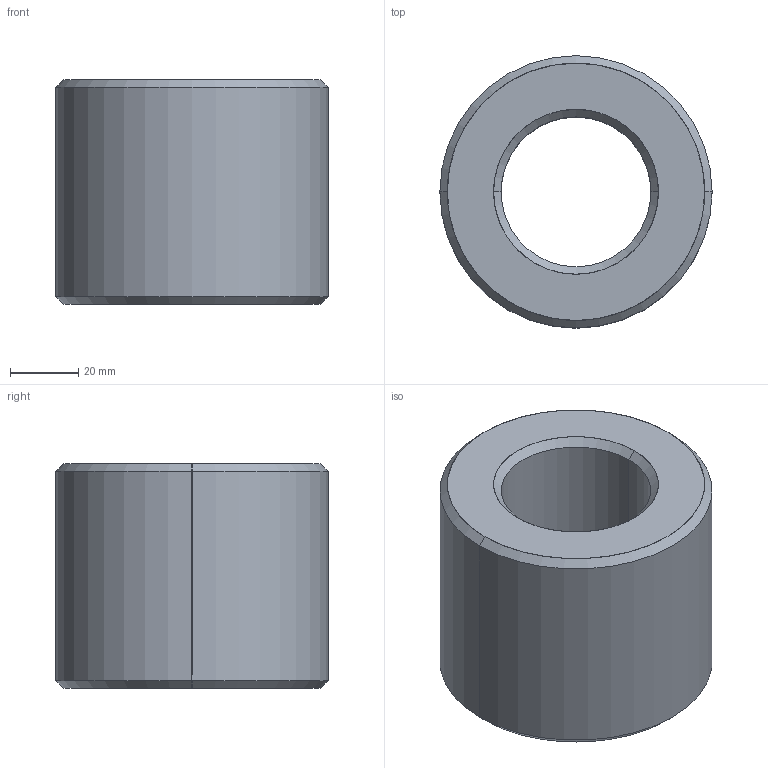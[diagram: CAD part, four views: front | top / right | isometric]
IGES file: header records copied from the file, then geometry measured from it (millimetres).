
Start section: SolidWorks IGES file using analytic representation for surfaces
Global section: file name: C:\Users\ianosborn\Desktop\L1339_v2\L1339_v2_20241024_IGES\L1339.R44-07.igs; native system: SolidWorks 2019; preprocessor: SolidWorks 2019; author: IanOsborn; date: 241024.151239; units: millimetre
Bounding box: 80 x 80 x 66 mm (x, y, z)
Surface area: 31718.8 mm2 (no closed solid volume)
Topology: 0 solids, 0 shells, 14 faces, 304 edges, 304 vertices
Faces by surface type: revolution 12, bspline 2
